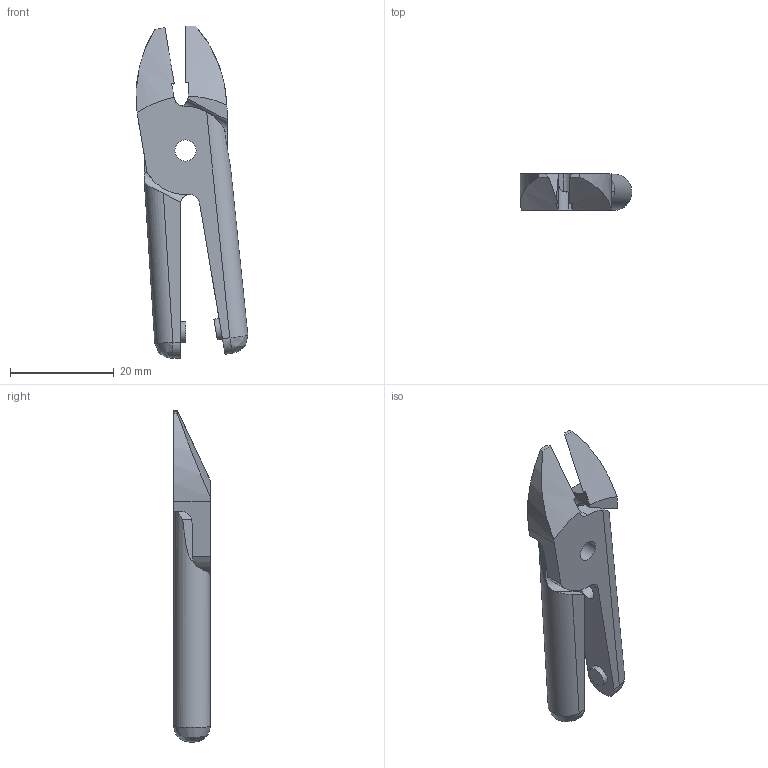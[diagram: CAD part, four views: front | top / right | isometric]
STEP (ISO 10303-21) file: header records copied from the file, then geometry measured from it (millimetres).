
FILE_DESCRIPTION(/* description */ (''),/* implementation_level */ '2;1');
FILE_NAME(/* name */ 'W:\Technik\Konstruktion\CAD-Daten\DJa\Vessel Schneidzangeneinsatz\N5HS\N5HS open.stp',/* time_stamp */ '2016-09-19T11:53:43+02:00',/* author */ ('DJansen'),/* organization */ (''),/* preprocessor_version */ 'ST-DEVELOPER v16.5',/* originating_system */ 'Autodesk Inventor 2017',/* authorisation */ '');
FILE_SCHEMA (('AUTOMOTIVE_DESIGN { 1 0 10303 214 3 1 1 }'));
Length unit declared in the file: millimetre
Products named in the file (1): N5HS Baugruppe
Bounding box: 21.53 x 7 x 64 mm (x, y, z)
Volume: 4449.8 mm3; surface area: 3086 mm2
Topology: 1 solids, 1 shells, 67 faces, 177 edges, 116 vertices
Faces by surface type: plane 38, cylinder 27, bspline 2
Full cylindrical faces by diameter (mm): 3.8 x2, 4 x2, 4.1 x1
Entity records: 2274 total; most frequent: CARTESIAN_POINT 586, DIRECTION 350, ORIENTED_EDGE 342, EDGE_CURVE 171, AXIS2_PLACEMENT_3D 129, VERTEX_POINT 115, LINE 92, VECTOR 92
